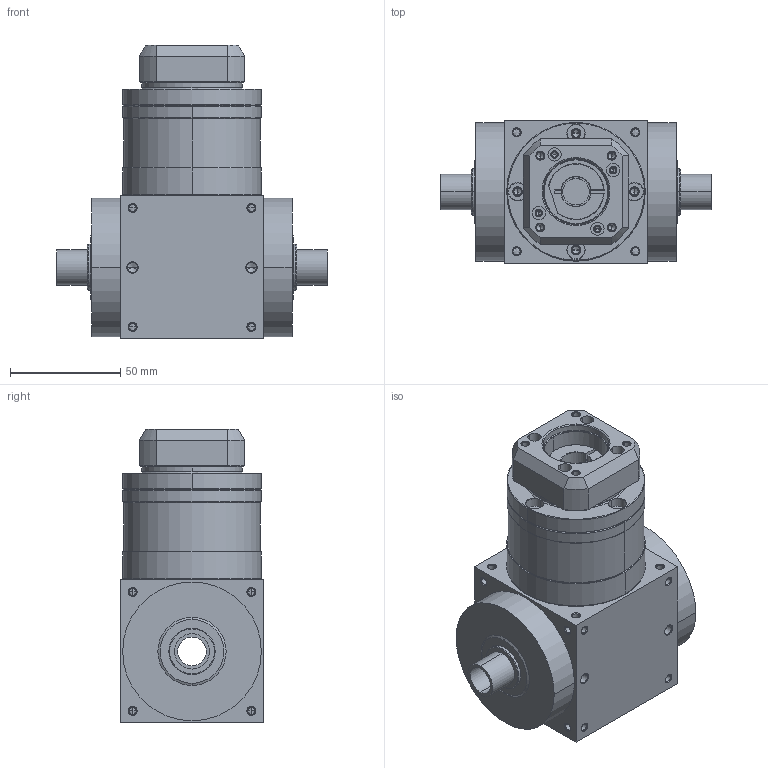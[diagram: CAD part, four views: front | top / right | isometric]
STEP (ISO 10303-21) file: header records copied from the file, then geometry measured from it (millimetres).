
FILE_DESCRIPTION((''),'2;1');
FILE_NAME('AT065FC1-P0403100302_ASM','2009-01-21T',('d00080'),(''),'PRO/ENGINEER BY PARAMETRIC TECHNOLOGY CORPORATION, 2006170','PRO/ENGINEER BY PARAMETRIC TECHNOLOGY CORPORATION, 2006170','');
FILE_SCHEMA(('CONFIG_CONTROL_DESIGN'));
Length unit declared in the file: millimetre
Products named in the file (6): AT065FC-A; P1801200001; P1502200001; P0501100001; P0403100302; AT065FC1-P0403100302_ASM
Assembly tree (5 placements, depth 2):
  AT065FC1-P0403100302_ASM
    AT065FC-A
    P1801200001
    P1502200001
    P0501100001
    P0403100302
Bounding box: 123 x 65 x 133.5 mm (x, y, z)
Volume: 465417.5 mm3; surface area: 86211.1 mm2
Topology: 5 solids, 43 shells, 739 faces, 1817 edges, 1090 vertices
Faces by surface type: cylinder 325, cone 270, plane 110, torus 34
Entity records: 22367 total; most frequent: CARTESIAN_POINT 4792, DIRECTION 3947, ORIENTED_EDGE 3322, EDGE_CURVE 1737, AXIS2_PLACEMENT_3D 1657, VERTEX_POINT 1090, CIRCLE 897, EDGE_LOOP 891
